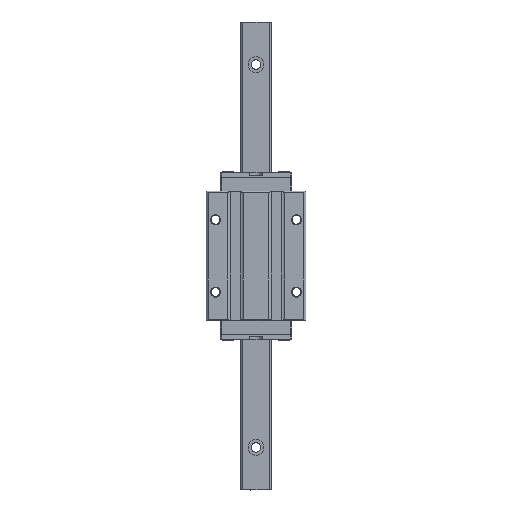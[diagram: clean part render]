
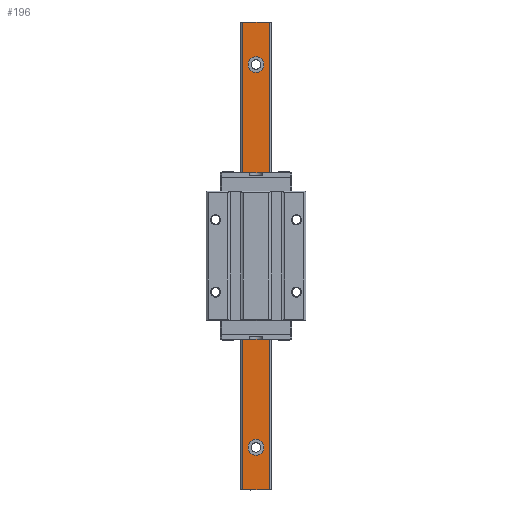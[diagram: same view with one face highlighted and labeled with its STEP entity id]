
A CAD part, top view. The second image highlights one B-rep face of the part: STEP entity #196.
In plain terms, the highlighted planar face has unit normal (0, 0, 1).
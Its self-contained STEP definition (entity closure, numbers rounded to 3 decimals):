
#196 = ADVANCED_FACE( '', ( #372, #373, #374, #375, #376 ), #377, .F. );
#372 = FACE_BOUND( '', #562, .T. );
#373 = FACE_BOUND( '', #563, .T. );
#374 = FACE_BOUND( '', #564, .T. );
#375 = FACE_BOUND( '', #565, .T. );
#376 = FACE_OUTER_BOUND( '', #566, .T. );
#377 = PLANE( '', #567 );
#562 = EDGE_LOOP( '', ( #1278 ) );
#563 = EDGE_LOOP( '', ( #1279 ) );
#564 = EDGE_LOOP( '', ( #1280 ) );
#565 = EDGE_LOOP( '', ( #1281 ) );
#566 = EDGE_LOOP( '', ( #1282, #1283, #1284, #1285 ) );
#567 = AXIS2_PLACEMENT_3D( '', #1286, #1287, #1288 );
#1278 = ORIENTED_EDGE( '', *, *, #2207, .T. );
#1279 = ORIENTED_EDGE( '', *, *, #2210, .T. );
#1280 = ORIENTED_EDGE( '', *, *, #2216, .T. );
#1281 = ORIENTED_EDGE( '', *, *, #2181, .T. );
#1282 = ORIENTED_EDGE( '', *, *, #2110, .T. );
#1283 = ORIENTED_EDGE( '', *, *, #2185, .F. );
#1284 = ORIENTED_EDGE( '', *, *, #2195, .F. );
#1285 = ORIENTED_EDGE( '', *, *, #2148, .T. );
#1286 = CARTESIAN_POINT( '', ( -6.15, -110., 13. ) );
#1287 = DIRECTION( '', ( 0., 0., -1. ) );
#1288 = DIRECTION( '', ( -1., 0., 0. ) );
#2110 = EDGE_CURVE( '', #3033, #3031, #3034, .T. );
#2148 = EDGE_CURVE( '', #3094, #3033, #3095, .T. );
#2181 = EDGE_CURVE( '', #3145, #3145, #3146, .T. );
#2185 = EDGE_CURVE( '', #3150, #3031, #3152, .T. );
#2195 = EDGE_CURVE( '', #3094, #3150, #3165, .T. );
#2207 = EDGE_CURVE( '', #3180, #3180, #3181, .T. );
#2210 = EDGE_CURVE( '', #3185, #3185, #3186, .T. );
#2216 = EDGE_CURVE( '', #3192, #3192, #3193, .T. );
#3031 = VERTEX_POINT( '', #5992 );
#3033 = VERTEX_POINT( '', #5995 );
#3034 = LINE( '', #5996, #5997 );
#3094 = VERTEX_POINT( '', #6082 );
#3095 = LINE( '', #6083, #6084 );
#3145 = VERTEX_POINT( '', #6151 );
#3146 = CIRCLE( '', #6152, 3.75 );
#3150 = VERTEX_POINT( '', #6157 );
#3152 = LINE( '', #6160, #6161 );
#3165 = LINE( '', #6181, #6182 );
#3180 = VERTEX_POINT( '', #6202 );
#3181 = CIRCLE( '', #6203, 3.75 );
#3185 = VERTEX_POINT( '', #6207 );
#3186 = CIRCLE( '', #6208, 3.75 );
#3192 = VERTEX_POINT( '', #6215 );
#3193 = CIRCLE( '', #6216, 3.75 );
#5992 = CARTESIAN_POINT( '', ( -6.15, 110., 13. ) );
#5995 = CARTESIAN_POINT( '', ( 6.15, 110., 13. ) );
#5996 = CARTESIAN_POINT( '', ( -6.15, 110., 13. ) );
#5997 = VECTOR( '', #7093, 1000. );
#6082 = CARTESIAN_POINT( '', ( 6.15, -110., 13. ) );
#6083 = CARTESIAN_POINT( '', ( 6.15, -110., 13. ) );
#6084 = VECTOR( '', #7134, 1000. );
#6151 = CARTESIAN_POINT( '', ( 3.75, -90., 13. ) );
#6152 = AXIS2_PLACEMENT_3D( '', #7179, #7180, #7181 );
#6157 = CARTESIAN_POINT( '', ( -6.15, -110., 13. ) );
#6160 = CARTESIAN_POINT( '', ( -6.15, -110., 13. ) );
#6161 = VECTOR( '', #7184, 1000. );
#6181 = CARTESIAN_POINT( '', ( -6.15, -110., 13. ) );
#6182 = VECTOR( '', #7195, 1000. );
#6202 = CARTESIAN_POINT( '', ( 3.75, 90., 13. ) );
#6203 = AXIS2_PLACEMENT_3D( '', #7210, #7211, #7212 );
#6207 = CARTESIAN_POINT( '', ( 3.75, 30., 13. ) );
#6208 = AXIS2_PLACEMENT_3D( '', #7216, #7217, #7218 );
#6215 = CARTESIAN_POINT( '', ( 3.75, -30., 13. ) );
#6216 = AXIS2_PLACEMENT_3D( '', #7220, #7221, #7222 );
#7093 = DIRECTION( '', ( -1., 0., 0. ) );
#7134 = DIRECTION( '', ( 0., 1., 0. ) );
#7179 = CARTESIAN_POINT( '', ( 0., -90., 13. ) );
#7180 = DIRECTION( '', ( 0., 0., -1. ) );
#7181 = DIRECTION( '', ( 1., 0., 0. ) );
#7184 = DIRECTION( '', ( 0., 1., 0. ) );
#7195 = DIRECTION( '', ( -1., 0., 0. ) );
#7210 = CARTESIAN_POINT( '', ( 0., 90., 13. ) );
#7211 = DIRECTION( '', ( 0., 0., -1. ) );
#7212 = DIRECTION( '', ( 1., 0., 0. ) );
#7216 = CARTESIAN_POINT( '', ( 0., 30., 13. ) );
#7217 = DIRECTION( '', ( 0., 0., -1. ) );
#7218 = DIRECTION( '', ( 1., 0., 0. ) );
#7220 = CARTESIAN_POINT( '', ( 0., -30., 13. ) );
#7221 = DIRECTION( '', ( 0., 0., -1. ) );
#7222 = DIRECTION( '', ( 1., 0., 0. ) );
